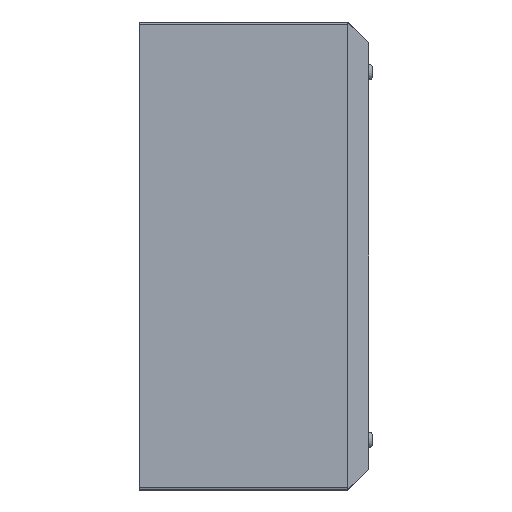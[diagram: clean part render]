
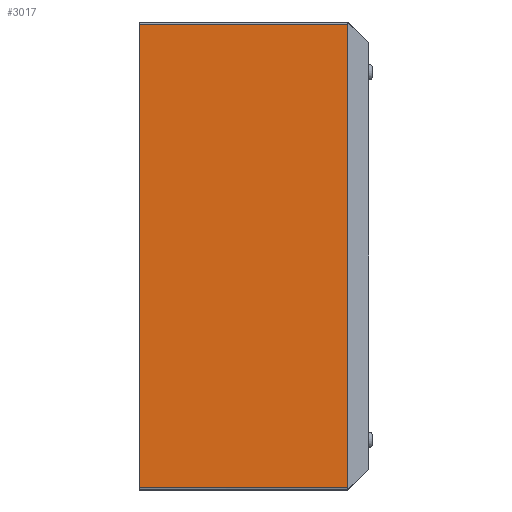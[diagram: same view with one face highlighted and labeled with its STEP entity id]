
A CAD part, left-side view. The second image highlights one B-rep face of the part: STEP entity #3017.
In plain terms, the highlighted planar face has unit normal (-1, 0, 0).
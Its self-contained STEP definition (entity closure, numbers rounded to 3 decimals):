
#34 = CARTESIAN_POINT ( 'NONE',  ( -100., 0., -56.1 ) ) ;
#56 = VERTEX_POINT ( 'NONE', #1082 ) ;
#227 = ORIENTED_EDGE ( 'NONE', *, *, #2972, .T. ) ;
#451 = CARTESIAN_POINT ( 'NONE',  ( -100., -50., 55.6 ) ) ;
#464 = CARTESIAN_POINT ( 'NONE',  ( -100., -50., -55.6 ) ) ;
#479 = VERTEX_POINT ( 'NONE', #451 ) ;
#621 = EDGE_CURVE ( 'NONE', #848, #479, #978, .T. ) ;
#827 = ORIENTED_EDGE ( 'NONE', *, *, #621, .T. ) ;
#848 = VERTEX_POINT ( 'NONE', #464 ) ;
#978 = LINE ( 'NONE', #2939, #1276 ) ;
#1081 = DIRECTION ( 'NONE',  ( 0., -1., 0. ) ) ;
#1082 = CARTESIAN_POINT ( 'NONE',  ( -100., 0., -55.6 ) ) ;
#1133 = PLANE ( 'NONE',  #3451 ) ;
#1276 = VECTOR ( 'NONE', #2732, 1000. ) ;
#1394 = CARTESIAN_POINT ( 'NONE',  ( -100., -55., -56.1 ) ) ;
#1408 = DIRECTION ( 'NONE',  ( 0., 0., 1. ) ) ;
#1420 = VECTOR ( 'NONE', #2375, 1000. ) ;
#1424 = ORIENTED_EDGE ( 'NONE', *, *, #3389, .T. ) ;
#1445 = LINE ( 'NONE', #1647, #3531 ) ;
#1577 = VECTOR ( 'NONE', #2288, 1000. ) ;
#1647 = CARTESIAN_POINT ( 'NONE',  ( -100., -55., -55.6 ) ) ;
#1947 = EDGE_CURVE ( 'NONE', #56, #2043, #3086, .T. ) ;
#2043 = VERTEX_POINT ( 'NONE', #2669 ) ;
#2163 = FACE_OUTER_BOUND ( 'NONE', #3407, .T. ) ;
#2288 = DIRECTION ( 'NONE',  ( 0., 0., 1. ) ) ;
#2375 = DIRECTION ( 'NONE',  ( 0., 1., 0. ) ) ;
#2669 = CARTESIAN_POINT ( 'NONE',  ( -100., 0., 55.6 ) ) ;
#2732 = DIRECTION ( 'NONE',  ( 0., 0., 1. ) ) ;
#2922 = LINE ( 'NONE', #3237, #1420 ) ;
#2939 = CARTESIAN_POINT ( 'NONE',  ( -100., -50., 56.1 ) ) ;
#2972 = EDGE_CURVE ( 'NONE', #479, #2043, #2922, .T. ) ;
#3017 = ADVANCED_FACE ( 'NONE', ( #2163 ), #1133, .T. ) ;
#3086 = LINE ( 'NONE', #34, #1577 ) ;
#3108 = DIRECTION ( 'NONE',  ( -1., 0., 0. ) ) ;
#3237 = CARTESIAN_POINT ( 'NONE',  ( -100., -55., 55.6 ) ) ;
#3371 = ORIENTED_EDGE ( 'NONE', *, *, #1947, .F. ) ;
#3389 = EDGE_CURVE ( 'NONE', #56, #848, #1445, .T. ) ;
#3407 = EDGE_LOOP ( 'NONE', ( #3371, #1424, #827, #227 ) ) ;
#3451 = AXIS2_PLACEMENT_3D ( 'NONE', #1394, #3108, #1408 ) ;
#3531 = VECTOR ( 'NONE', #1081, 1000. ) ;
